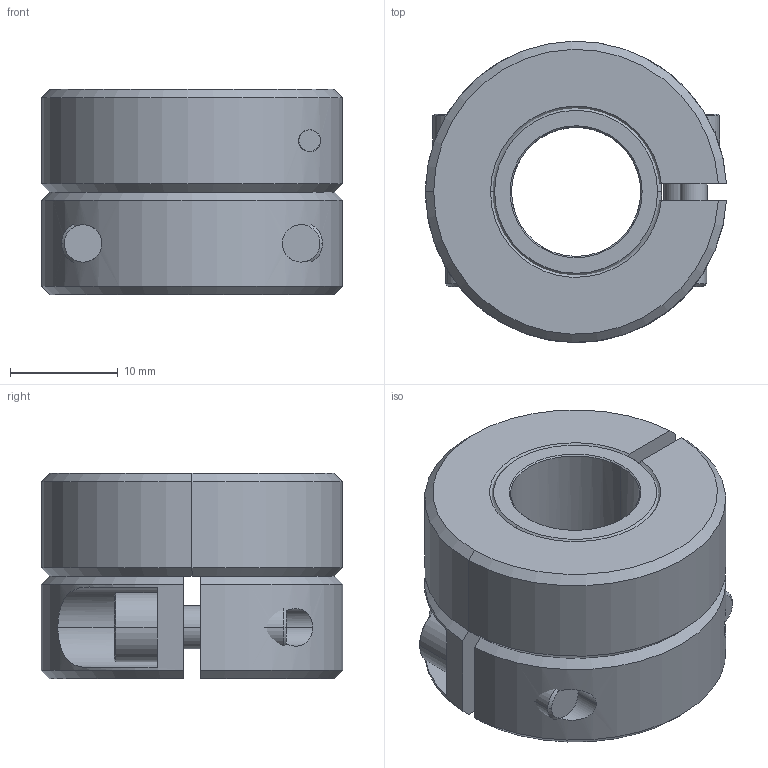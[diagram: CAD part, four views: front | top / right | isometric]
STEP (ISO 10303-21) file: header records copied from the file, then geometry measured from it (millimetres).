
FILE_DESCRIPTION( ( 'STEP File Generated from Kubotek KeyCreator' ), '1' );
FILE_NAME( 'Part1', '2006-06-03T22:47:07', ( 'KeyCreator USER' ), ( 'Kubotek USA, Inc.' ), 'ACIS Interop R13 SP5', 'Kubotek KeyCreator V4.5.0 (0337)', 'KC' );
FILE_SCHEMA( ( 'CONFIG_CONTROL_DESIGN' ) );
Length unit declared in the file: inch
Products named in the file (5): 1; 2; 3; 4; 5
Bounding box: 27.92 x 27.94 x 19.05 mm (x, y, z)
Volume: 8889.5 mm3; surface area: 6482.7 mm2
Topology: 5 solids, 5 shells, 124 faces, 298 edges, 192 vertices
Faces by surface type: plane 54, cylinder 40, cone 30
Entity records: 4084 total; most frequent: CARTESIAN_POINT 889, DIRECTION 648, ORIENTED_EDGE 596, EDGE_CURVE 298, AXIS2_PLACEMENT_3D 241, VERTEX_POINT 192, LINE 166, VECTOR 166
